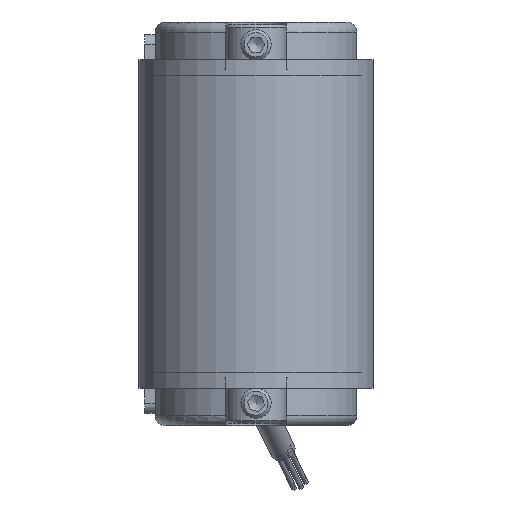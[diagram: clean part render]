
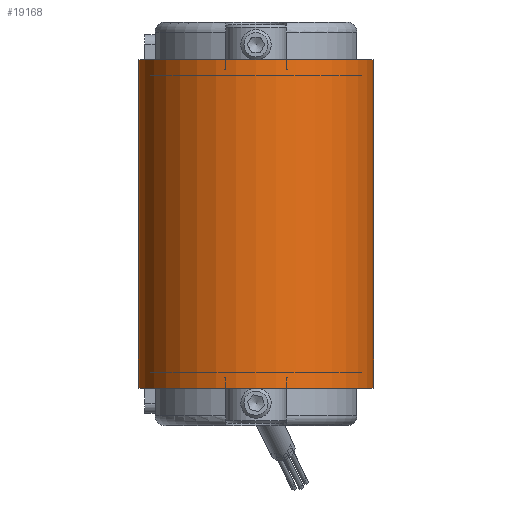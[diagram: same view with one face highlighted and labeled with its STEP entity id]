
A CAD part, front view. The second image highlights one B-rep face of the part: STEP entity #19168.
In plain terms, the highlighted cylindrical face has radius 23.3 mm (diameter 46.6 mm), a partial arc.
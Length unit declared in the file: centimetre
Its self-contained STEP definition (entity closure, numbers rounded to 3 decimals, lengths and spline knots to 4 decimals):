
#391=CYLINDRICAL_SURFACE('',#20574,2.33);
#1017=CIRCLE('',#20569,2.33);
#1020=CIRCLE('',#20575,2.33);
#2690=FACE_OUTER_BOUND('',#3787,.T.);
#3787=EDGE_LOOP('',(#15313,#15314,#15315,#15316));
#5047=LINE('',#32095,#6528);
#5048=LINE('',#32099,#6529);
#6528=VECTOR('',#24174,1.);
#6529=VECTOR('',#24179,1.);
#8541=VERTEX_POINT('',#32078);
#8542=VERTEX_POINT('',#32079);
#8547=VERTEX_POINT('',#32093);
#8548=VERTEX_POINT('',#32097);
#10923=EDGE_CURVE('',#8541,#8542,#1017,.T.);
#10931=EDGE_CURVE('',#8547,#8542,#5047,.T.);
#10932=EDGE_CURVE('',#8547,#8548,#1020,.T.);
#10933=EDGE_CURVE('',#8541,#8548,#5048,.T.);
#15313=ORIENTED_EDGE('',*,*,#10932,.T.);
#15314=ORIENTED_EDGE('',*,*,#10933,.F.);
#15315=ORIENTED_EDGE('',*,*,#10923,.T.);
#15316=ORIENTED_EDGE('',*,*,#10931,.F.);
#19168=ADVANCED_FACE('',(#2690),#391,.T.);
#20569=AXIS2_PLACEMENT_3D('',#32080,#24159,#24160);
#20574=AXIS2_PLACEMENT_3D('',#32096,#24175,#24176);
#20575=AXIS2_PLACEMENT_3D('',#32098,#24177,#24178);
#24159=DIRECTION('center_axis',(0.,0.,
-1.));
#24160=DIRECTION('ref_axis',(-1.,0.,0.));
#24174=DIRECTION('',(0.,0.,1.));
#24175=DIRECTION('center_axis',(0.,0.,
-1.));
#24176=DIRECTION('ref_axis',(-1.,0.,0.));
#24177=DIRECTION('center_axis',(0.,0.,
1.));
#24178=DIRECTION('ref_axis',(-1.,0.,0.));
#24179=DIRECTION('',(0.,0.,-1.));
#32078=CARTESIAN_POINT('',(2.33,-67.,3.25));
#32079=CARTESIAN_POINT('',(-2.33,-67.,3.25));
#32080=CARTESIAN_POINT('Origin',(0.,-67.,
3.25));
#32093=CARTESIAN_POINT('',(-2.33,-67.,-3.25));
#32095=CARTESIAN_POINT('',(-2.33,-67.,0.));
#32096=CARTESIAN_POINT('Origin',(0.,-67.,
0.));
#32097=CARTESIAN_POINT('',(2.33,-67.,-3.25));
#32098=CARTESIAN_POINT('Origin',(0.,-67.,
-3.25));
#32099=CARTESIAN_POINT('',(2.33,-67.,0.));
